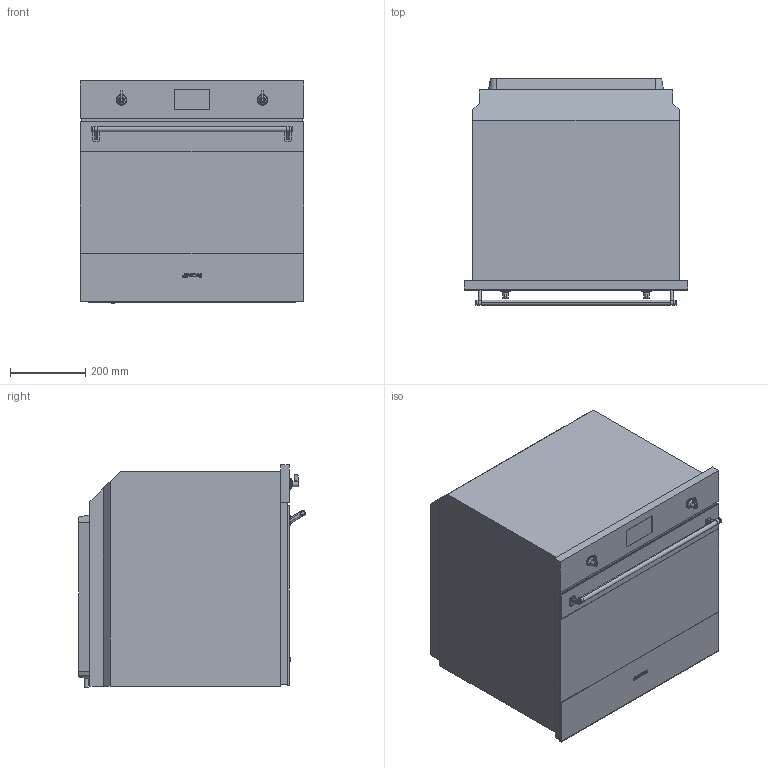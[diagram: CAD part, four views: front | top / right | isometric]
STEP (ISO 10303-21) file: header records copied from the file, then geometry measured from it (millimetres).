
FILE_DESCRIPTION(/* description */ ('Unknown'),/* implementation_level */ '2;1');
FILE_NAME(/* name */ 'SO6301S2X',/* time_stamp */ '2025-07-15T16:33:16+02:00',/* author */ ('Unknown'),/* organization */ ('Unknown'),/* preprocessor_version */ 'ST-DEVELOPER v16.7',/* originating_system */ 'DEX',/* authorisation */ $);
FILE_SCHEMA (('AUTOMOTIVE_DESIGN {1 0 10303 214 3 1 1}'));
Length unit declared in the file: millimetre
Products named in the file (1): SO6301S2X
Bounding box: 597 x 604.19 x 592.11 mm (x, y, z)
Volume: 172276069.5 mm3; surface area: 3426938.2 mm2
Topology: 30 solids, 30 shells, 304 faces, 683 edges, 443 vertices
Faces by surface type: plane 156, cylinder 77, bspline 69, cone 2
Full cylindrical faces by diameter (mm): 4.612 x2, 10 x1, 13.999 x2, 14.995 x1
Entity records: 12241 total; most frequent: CARTESIAN_POINT 5136, ORIENTED_EDGE 1338, DIRECTION 1068, EDGE_CURVE 669, VERTEX_POINT 439, AXIS2_PLACEMENT_3D 366, LINE 336, VECTOR 336
